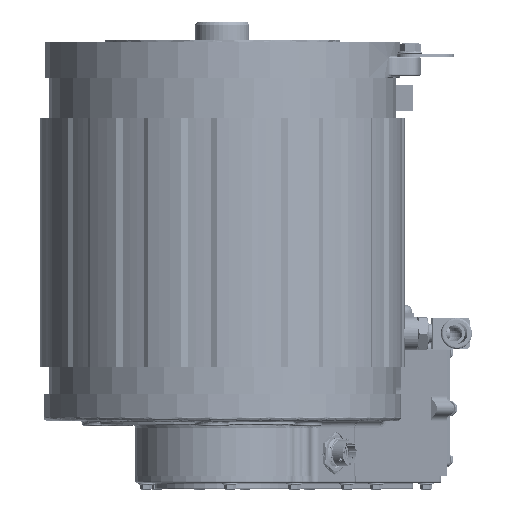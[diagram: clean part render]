
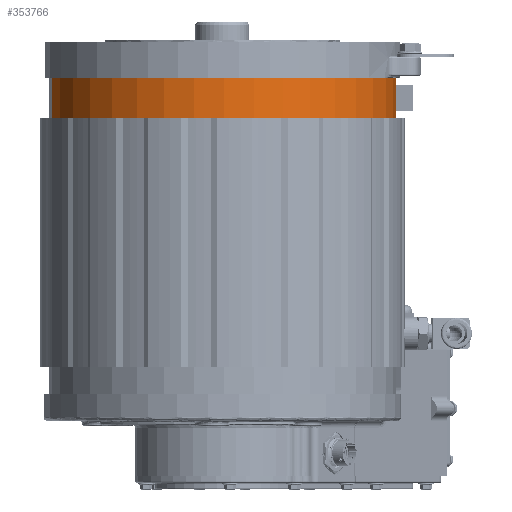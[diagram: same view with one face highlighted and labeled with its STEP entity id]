
A CAD part, front view. The second image highlights one B-rep face of the part: STEP entity #353766.
In plain terms, the highlighted cylindrical face has radius 129 mm (diameter 258 mm), a partial arc.
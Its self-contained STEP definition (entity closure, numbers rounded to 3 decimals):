
#4729 = LINE ( 'NONE', #54967, #298690 ) ;
#11321 = CIRCLE ( 'NONE', #71849, 129. ) ;
#14483 = EDGE_CURVE ( 'NONE', #336728, #337706, #140308, .T. ) ;
#16478 = DIRECTION ( 'NONE',  ( 0., 0., 1. ) ) ;
#31187 = CARTESIAN_POINT ( 'NONE',  ( 129., 0., -117.5 ) ) ;
#31963 = CARTESIAN_POINT ( 'NONE',  ( -129., 0., -117.5 ) ) ;
#32505 = VERTEX_POINT ( 'NONE', #31963 ) ;
#35939 = CYLINDRICAL_SURFACE ( 'NONE', #221339, 129. ) ;
#54967 = CARTESIAN_POINT ( 'NONE',  ( -129., 0., 0. ) ) ;
#61111 = ORIENTED_EDGE ( 'NONE', *, *, #212174, .T. ) ;
#71849 = AXIS2_PLACEMENT_3D ( 'NONE', #103361, #302571, #131992 ) ;
#83535 = DIRECTION ( 'NONE',  ( 0., 0., 1. ) ) ;
#99728 = ORIENTED_EDGE ( 'NONE', *, *, #285516, .F. ) ;
#103361 = CARTESIAN_POINT ( 'NONE',  ( 0., 0., -117.5 ) ) ;
#114212 = DIRECTION ( 'NONE',  ( 0., 0., 1. ) ) ;
#131992 = DIRECTION ( 'NONE',  ( -1., 0., 0. ) ) ;
#140308 = LINE ( 'NONE', #256058, #282828 ) ;
#156354 = ORIENTED_EDGE ( 'NONE', *, *, #235223, .T. ) ;
#158943 = ORIENTED_EDGE ( 'NONE', *, *, #14483, .F. ) ;
#163888 = DIRECTION ( 'NONE',  ( 0., 0., -1. ) ) ;
#186871 = CARTESIAN_POINT ( 'NONE',  ( 0., 0., 0. ) ) ;
#198559 = CIRCLE ( 'NONE', #335929, 129. ) ;
#212174 = EDGE_CURVE ( 'NONE', #278547, #337706, #198559, .T. ) ;
#221339 = AXIS2_PLACEMENT_3D ( 'NONE', #186871, #16478, #300312 ) ;
#235223 = EDGE_CURVE ( 'NONE', #32505, #278547, #4729, .T. ) ;
#242502 = CARTESIAN_POINT ( 'NONE',  ( -129., 0., -82.5 ) ) ;
#255549 = CARTESIAN_POINT ( 'NONE',  ( 129., 0., -82.5 ) ) ;
#256058 = CARTESIAN_POINT ( 'NONE',  ( 129., 0., 0. ) ) ;
#263061 = FACE_OUTER_BOUND ( 'NONE', #327010, .T. ) ;
#278547 = VERTEX_POINT ( 'NONE', #242502 ) ;
#282828 = VECTOR ( 'NONE', #114212, 1000. ) ;
#285516 = EDGE_CURVE ( 'NONE', #32505, #336728, #11321, .T. ) ;
#298690 = VECTOR ( 'NONE', #83535, 1000. ) ;
#300312 = DIRECTION ( 'NONE',  ( 1., 0., 0. ) ) ;
#302571 = DIRECTION ( 'NONE',  ( 0., 0., -1. ) ) ;
#327010 = EDGE_LOOP ( 'NONE', ( #99728, #156354, #61111, #158943 ) ) ;
#334564 = CARTESIAN_POINT ( 'NONE',  ( 0., 0., -82.5 ) ) ;
#335929 = AXIS2_PLACEMENT_3D ( 'NONE', #334564, #163888, #363194 ) ;
#336728 = VERTEX_POINT ( 'NONE', #31187 ) ;
#337706 = VERTEX_POINT ( 'NONE', #255549 ) ;
#353766 = ADVANCED_FACE ( 'NONE', ( #263061 ), #35939, .T. ) ;
#363194 = DIRECTION ( 'NONE',  ( 1., 0., 0. ) ) ;
